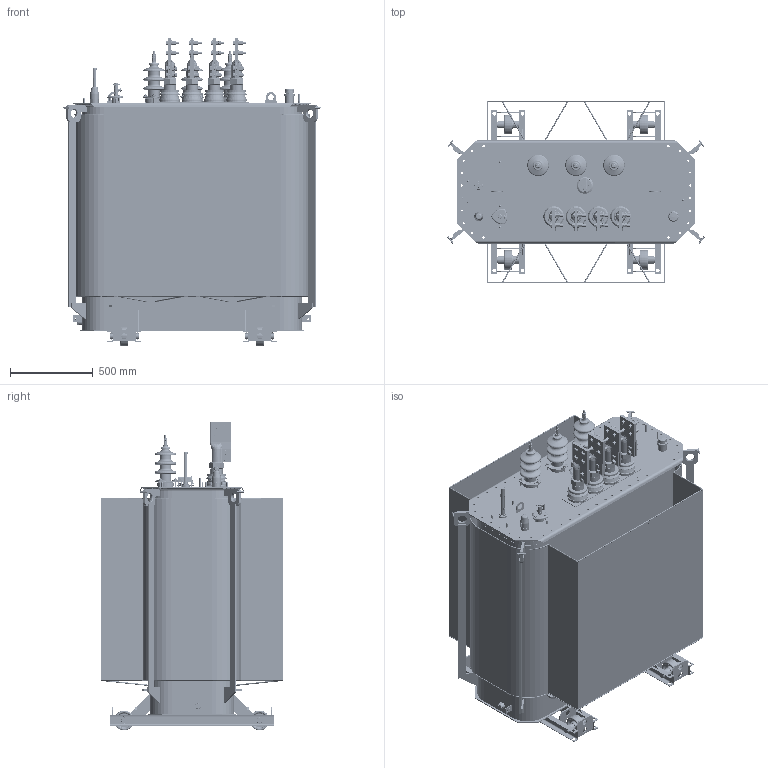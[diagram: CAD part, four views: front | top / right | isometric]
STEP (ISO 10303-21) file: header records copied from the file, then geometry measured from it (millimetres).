
FILE_DESCRIPTION(/* description */ (''),/* implementation_level */ '2;1');
FILE_NAME(/* name */ 'D:\SEARCHWORK\Готовые\Готовые ТМГ\ТМГ11\ТМГ11-1000-10-УХЛ1\ТМГ11-1000-10-УХЛ1.stp',/* time_stamp */ '2024-06-13T14:33:22+03:00',/* author */ ('55505'),/* organization */ (''),/* preprocessor_version */ 'ST-DEVELOPER v18.1',/* originating_system */ 'Autodesk Inventor 2021',/* authorisation */ '');
FILE_SCHEMA (('AUTOMOTIVE_DESIGN { 1 0 10303 214 3 1 1 }'));
Products named in the file (1): ВИЕЛ.672333.008
Bounding box: 1558.8 x 1107.36 x 1869.88 mm (x, y, z)
Volume: 49640576.5 mm3; surface area: 25427160.2 mm2
Topology: 44 solids, 82 shells, 10720 faces, 28425 edges, 18048 vertices
Faces by surface type: plane 5266, cylinder 2464, bspline 1875, cone 601, torus 406, sphere 108
Full cylindrical faces by diameter (mm): 0.5 x1, 1.5 x2, 1.6 x3, 2 x2, 3 x10, 3.1 x4, 3.15 x3, 3.2 x3, 3.5 x1, 3.8 x4, 3.96 x1, 4 x4, 4.917 x2, 5 x6, 5.3 x2, 5.5 x15, 6 x22, 6.2 x5, 6.4 x3, 6.5 x1, 7 x10, 7.1 x2, 7.5 x9, 7.92 x3, 8 x22, 8.4 x6, 8.746 x17, 9 x9, 10 x24, 10.7 x3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
Entity records: 405682 total; most frequent: CARTESIAN_POINT 139739, ORIENTED_EDGE 56252, DIRECTION 48230, EDGE_CURVE 28138, VERTEX_POINT 18055, AXIS2_PLACEMENT_3D 16661, LINE 14908, VECTOR 14908
